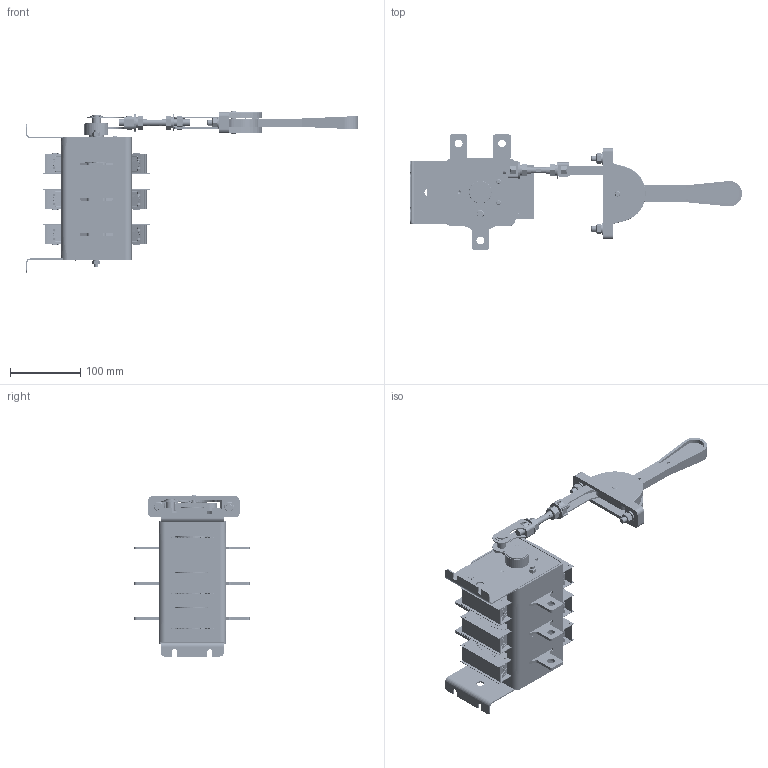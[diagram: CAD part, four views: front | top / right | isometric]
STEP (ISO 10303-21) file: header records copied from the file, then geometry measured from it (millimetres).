
FILE_DESCRIPTION (( 'STEP AP214' ), '1' );
FILE_NAME ('ﾂﾐ32-37 ﾃﾆﾈﾊ.642523.011-07 (ﾀ71240-400ﾀ).STEP', '2023-04-18T13:40:29', ( '' ), ( '' ), 'SwSTEP 2.0', 'SolidWorks 2018', '' );
FILE_SCHEMA (( 'AUTOMOTIVE_DESIGN' ));
Length unit declared in the file: millimetre
Products named in the file (57): Ðóêîÿòêà ÃÆÈÊ.303658.014_-01; Òàáëè÷êà äëÿ ñáîðêè ÷èñòàÿ áîëüøàÿ; Ïðóæ014(13)_¤«ï á¡®àª¨; 婰膲僗闉010; 锐牮钽囫栩咫黖闷仁.741271.007_帷獱; Ðóêîÿòêà_ÃÆÈÊ.303658.018_2 ­ ¯à ¢«¥­¨ï; Êîðïóñ ñðåäíèé ÃÆÈÊ.735384.061; Áîêîâèíà ïðàâàÿ ÃÆÈÊ.735224.034; Ñêîáà010; Êàìåðà äóãîãàñèòåëüíàÿ ÃÆÈÊ.686431.030; 锐牮钽囫栩咫黖闷仁.741271.007; ﾎ_ﾃﾆﾈﾊ.715411.027_-01 (癸ｮ爼); ﾘ琺矜 6 65ﾃ 016; ﾘ琺矜 8.01.019; 青汶篪赅_闷仁.735211.002; 务黖闷仁.715411.019; 务黖闷仁.715411.024; 殃钺郷闷仁.301535.003蚜; Òàáëè÷êà äëÿ ñáîðêè ÷èñòàÿ; ﾘ琺矜 8 65ﾃ 016; 挓鎀霠罻; îñü023; 殃钺郷闷仁.746743.011; 殃钺郷闷仁.745327.019_帷獱; 想囫蜩磬_闷仁.745355.007; 锐牮钽囫栩咫黖闷仁.686433.012蚜; 想囫蜩磬_闷仁.745355.032; Ãàéêà 2Ì8-6Í.5.016; 仫桦郷闷仁.758292.007; Êîíòàêò ïîäâèæíûé ÃÆÈÊ.685179.159; Ðóêîÿòêà_ÃÆÈÊ.303658.012ÑÁ; Øïèëüêà Ì6 ÃÆÈÊ.758292.005; 殃钺郷闷仁.301535.004蚜; Ãàéêà 2Ì6-6Í.5.016; 澡犟囹铕_闷仁.745484.006; ﾂ鏆鮏 ﾃﾆﾈﾊ.745485.017; ﾂ鏆鮏 ﾃﾆﾈﾊ.745485.016; ﾂ琿 ﾃﾆﾈﾊ.715274.007; Îáîëî÷êà_100-400_2 ­ ¯à ¢«¥­¨ï; Ïîâîäîê ÃÆÈÊ.304594.012CÁ_2 ­ ¯à ¢«¥­¨ï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
Assembly tree (102 placements, depth 5):
  ﾂﾐ32-37 ﾃﾆﾈﾊ.642523.011-07 (ﾀ71240-400ﾀ)
    Êîðïóñ ëåâûé ÃÆÈÊ.735384.062
    Êîðïóñ ñðåäíèé ÃÆÈÊ.735384.061  x2
    Áîêîâèíà ëåâàÿ ÃÆÈÊ.735224.034
    暑痫篑 镳噔 闷仁.735384.060
    ﾂ鏆鮏 ﾃﾆﾈﾊ.745485.016  x6
    ﾂ鏆鮏 ﾃﾆﾈﾊ.745485.017  x3
    Êîíòàêò ïîäâèæíûé ÃÆÈÊ.685179.159  x3
      Êîíòàêò ïîäâèæíûé_ÃÆÈÊ.745355.031
      想囫蜩磬_闷仁.745355.007
      澡犟囹铕_闷仁.745484.006
      务黖闷仁.715411.019
      ﾏ跖浯_ﾃﾆﾈﾊ.753553.011_-01 (癸ｮ爼)
    ﾂ琿 ﾃﾆﾈﾊ.715274.007
    Êàìåðà äóãîãàñèòåëüíàÿ ÃÆÈÊ.686431.030  x6
      羊屙赅 闷仁.741226.007
      想囫蜩磬_闷仁.745355.032
      锐牮钽囫栩咫黖闷仁.686433.012蚜
        锐牮钽囫栩咫黖闷仁.741271.007_帷獱
        殃钺郷闷仁.746743.011
      锐牮钽囫栩咫黖闷仁.741271.007
    Áîêîâèíà ïðàâàÿ ÃÆÈÊ.735224.034
    Øïèëüêà Ì6 ÃÆÈÊ.758292.005  x2
    Ãàéêà 2Ì6-6Í.5.016  x4
    ﾘ琺矜 6 65ﾃ 016  x4
    Òàáëè÷êà äëÿ ñáîðêè ÷èñòàÿ
    Òàáëè÷êà äëÿ ñáîðêè ÷èñòàÿ áîëüøàÿ
    Ðóêîÿòêà ÃÆÈÊ.303658.014_-01
      暑痫篑_闷仁.735384.053_儐垔.735384.053-01
      Ðóêîÿòêà_ÃÆÈÊ.303658.012ÑÁ
        瀇僔蠂縺019
        挓鎀霠罻
      îñü023
      Ñêîáà010
      婰膲僗闉010
      Ïðóæ014(13)_¤«ï á¡®àª¨
      殃钺郷闷仁.301535.003蚜
        Ãàéêà 2Ì10-6Í.5.016
        殃钺郷闷仁.745327.019_帷獱
      务黖闷仁.715411.024
      仫桦郷闷仁.758292.007
      殃钺郷闷仁.301535.004蚜
        殃钺郷闷仁.745327.027_帷獱
        Ãàéêà 2Ì10-6Í.5.016
      Ðóêîÿòêà_ÃÆÈÊ.303658.018_2 ­ ¯à ¢«¥­¨ï
        Ïîâîäîê ÃÆÈÊ.304594.012CÁ_2 ­ ¯à ¢«¥­¨ï
          ÏîâîäîêÃÆÈÊ.741321.006_2 ­ ¯à
          ﾎ_ﾃﾆﾈﾊ.715411.027_-01 (癸ｮ爼)
          想囫蜩磬_闷仁.745355.029
        Îáîëî÷êà_100-400_2 ­ ¯à ¢«¥­¨ï
      Ãàéêà 2Ì10-6Í.5.016  x2
      ﾘ琺矜 ⅰⅱ浯 ﾃﾆﾈﾊ.758491.067
      青汶篪赅_闷仁.735211.002
      Áîëò Ì8õ25.58.019  x2
      ﾘ琺矜 8.01.019  x2
      ﾘ琺矜 8 65ﾃ 016  x2
      Ãàéêà 2Ì8-6Í.5.016  x2
      Øàéáà ñïåöèàëüíàÿ  x2
      ﾘ琺矜 10 65ﾃ 016  x2
Bounding box: 472.04 x 163.75 x 229 mm (x, y, z)
Volume: 1052030.3 mm3; surface area: 724881.2 mm2
Topology: 184 solids, 184 shells, 7148 faces, 18688 edges, 11925 vertices
Faces by surface type: plane 4800, cylinder 1739, torus 396, cone 122, bspline 81, sphere 10
Entity records: 71098 total; most frequent: CARTESIAN_POINT 15330, DIRECTION 10579, ORIENTED_EDGE 9942, EDGE_CURVE 4971, AXIS2_PLACEMENT_3D 3698, VERTEX_POINT 3213, VECTOR 3183, LINE 3183
